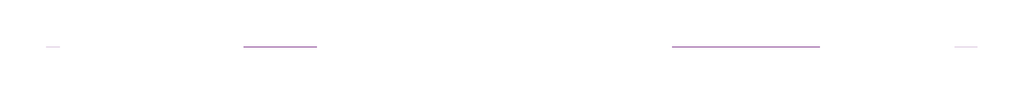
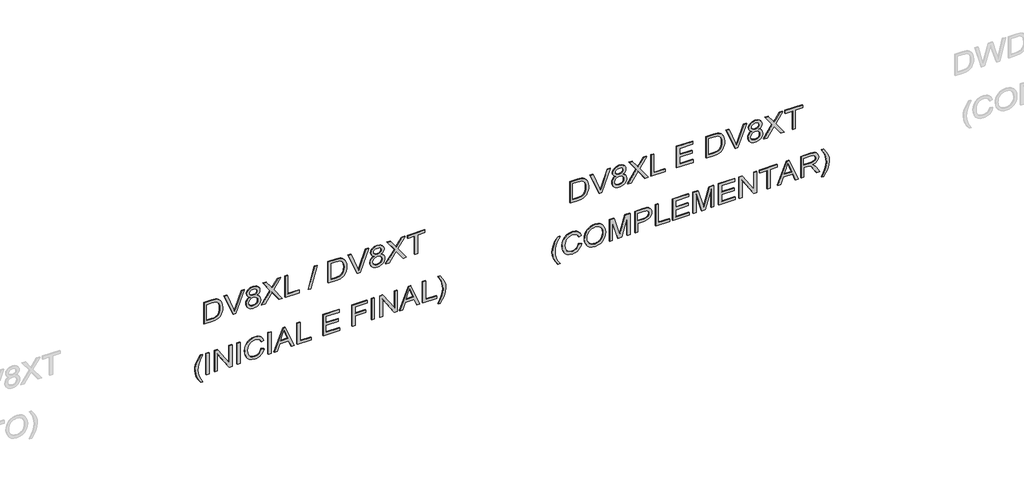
# One storey, part 5 of 7: 2 proxies.
"""IFC4 building model written with IfcOpenShell, lengths in millimetres."""

from ifc_helpers import new_model, si_unit, frame, origin, place, context, project, spatial, polyline, outline, extrude, element, save

model = new_model("IFC4")

# Units and contexts
model_context = context("Model", 3, world=origin())
ifc_project = project(units=[si_unit("LENGTHUNIT", "METRE", prefix="MILLI")], contexts=[model_context])

# Site, building, storey
site = spatial("IfcSite", under=ifc_project)
building = spatial("IfcBuilding", under=site)
storey = spatial("IfcBuildingStorey", under=building, Name="02 - Marelli - Planta Baixa - Painel Duplo", Elevation=-12000.0)

# Proxies
placement = place(None, origin())
element("IfcBuildingElementProxy", 1, Name="300mm Arial", ObjectType="300mm Arial", at=placement, inside=storey, context=model_context, shape_type="SweptSolid", body=[
    extrude(outline(polyline([(-6049.0625952, 32304.6035139), (-6049.0625952, 32413.5701609), (-6043.9122473, 32462.0202196), (-6037.5570858, 32481.5639506), (-6028.7922972, 32498.035867), (-6016.9740882, 32512.3832648), (-6001.458665, 32525.5534402), (-5981.8045694, 32536.9945703), (-5957.570343, 32546.1548319), (-5929.1054736, 32552.1697026), (-5896.7594492, 32554.1746594), (-5858.6836627, 32551.2132094), (-5825.0960365, 32542.3288592), (-5796.5483937, 32527.4848207), (-5773.5925572, 32506.6443057), (-5760.4039877, 32486.3740077), (-5752.0346723, 32462.3513134), (-5747.6936647, 32408.5669657), (-5747.6936647, 32304.6035139), (-6049.0625952, 32304.6035139)]), holes=[polyline([(-6011.3914789, 32342.2746302), (-5785.364781, 32342.2746302), (-5785.364781, 32407.9047782), (-5786.8730972, 32439.6529943), (-5791.3980458, 32461.3212439), (-5803.97961, 32482.6124143), (-5824.8017309, 32500.4270999), (-5855.1152073, 32512.4844323), (-5896.170838, 32516.5035431), (-5927.155699, 32514.452601), (-5953.155759, 32508.2997746), (-5974.2629885, 32498.4681283), (-5990.5693579, 32485.3807263), (-5999.3801317, 32473.2038323), (-6005.9468253, 32457.4216947), (-6010.0303155, 32436.5076033), (-6011.3914789, 32408.9348477), (-6011.3914789, 32342.2746302)])]), frame((0.0, 8778.3159498, 0.0), z_axis=(0.0, 1.0, 0.0), x_axis=(0.0, 0.0, 1.0)), (0.0, 0.0, 1.0), 10.0),
    extrude(outline(polyline([(-6049.0625952, 32694.9998872), (-6049.0625952, 32733.9218023), (-5747.6936647, 32848.7745612), (-5747.6936647, 32808.4546945), (-5964.8176183, 32727.962114), (-6013.7459236, 32711.922459), (-5964.8176183, 32695.6620748), (-5747.6936647, 32615.3902234), (-5747.6936647, 32575.0703568), (-6049.0625952, 32694.9998872)])), frame((0.0, 8778.3159498, 0.0), z_axis=(0.0, 1.0, 0.0), x_axis=(0.0, 0.0, 1.0)), (0.0, 0.0, 1.0), 10.0),
    extrude(outline(polyline([(-5883.074239, 32924.5582522), (-5893.5588758, 32901.2345337), (-5910.4446594, 32883.9440799), (-5932.9590375, 32873.2387139), (-5960.3294579, 32869.6702585), (-5979.4800151, 32871.3717127), (-5996.9797017, 32876.4760754), (-6012.8285179, 32884.9833466), (-6027.0264637, 32896.8935261), (-6038.7274104, 32911.5812148), (-6047.0852295, 32928.4210131), (-6052.0999209, 32947.4129211), (-6053.7714847, 32968.5569388), (-6052.1068187, 32989.7009565), (-6047.1128206, 33008.6928645), (-6038.7894905, 33025.5326628), (-6027.1368283, 33040.2203515), (-6013.0377508, 33052.1305311), (-5997.3751749, 33060.6378022), (-5980.1491004, 33065.7421649), (-5961.3595275, 33067.4436191), (-5935.0099796, 33064.0131195), (-5912.6151632, 33053.7216207), (-5895.0212068, 33036.8450342), (-5883.074239, 33013.6592714), (-5873.1690162, 33033.1846083), (-5859.7873087, 33047.0261684), (-5843.3521805, 33055.2759221), (-5824.2866961, 33058.02584), (-5808.8908346, 33056.4807357), (-5794.7089837, 33051.8454225), (-5781.7411434, 33044.1199006), (-5769.9873136, 33033.30417), (-5760.2338422, 33019.9546521), (-5753.267077, 33004.6277684), (-5747.6936647, 32968.041904), (-5753.1383183, 32931.6767688), (-5759.9441352, 32916.5154321), (-5769.4722788, 32903.3682493), (-5781.0007809, 32892.7456567), (-5793.8076728, 32885.1580905), (-5807.8929547, 32880.6055508), (-5823.2566265, 32879.0880376), (-5842.9567074, 32881.8747437), (-5859.6769441, 32890.234862), (-5873.1414251, 32904.3891218), (-5883.074239, 32924.5582522)]), holes=[polyline([(-5824.3602725, 32916.7591539), (-5809.4610517, 32920.1528653), (-5796.8426993, 32930.3339995), (-5788.2342606, 32946.6771571), (-5785.364781, 32968.5569388), (-5788.29864, 32990.2987647), (-5797.1002167, 33006.6695135), (-5810.2060128, 33016.9334212), (-5826.0525297, 33020.3547237), (-5841.3196325, 33017.0437858), (-5854.0115613, 33007.1109719), (-5862.5648177, 32990.9609523), (-5865.4159032, 32968.9983972), (-5862.5464236, 32946.5116102), (-5853.9379849, 32930.1132703), (-5840.8045977, 32920.097683), (-5824.3602725, 32916.7591539)]), polyline([(-5959.0050828, 32907.3413748), (-5937.0241336, 32911.3236974), (-5919.0530981, 32923.2706652), (-5907.0785391, 32942.3177555), (-5903.0870195, 32967.6004456), (-5907.1337214, 32993.5361263), (-5919.2738273, 33013.217813), (-5937.5943506, 33025.6338304), (-5960.1823051, 33029.7725028), (-5982.3931806, 33025.7625891), (-6000.3182308, 33013.7328478), (-6012.154834, 32994.4926195), (-6016.1003684, 32968.8512444), (-6014.2241702, 32952.1126136), (-6008.5955757, 32935.8890176), (-5999.5364816, 32922.3417632), (-5987.3687846, 32913.6321569), (-5959.0050828, 32907.3413748)])]), frame((0.0, 8778.3159498, 0.0), z_axis=(0.0, 1.0, 0.0), x_axis=(0.0, 0.0, 1.0)), (0.0, 0.0, 1.0), 10.0),
    extrude(outline(polyline([(-6049.0625952, 33081.5702877), (-6049.0625952, 33127.4083843), (-5942.082511, 33202.9713461), (-5917.2136881, 33220.7032583), (-5939.875219, 33236.8164897), (-6049.0625952, 33314.2188615), (-6049.0625952, 33359.3947705), (-5885.2815309, 33243.2176364), (-5747.6936647, 33340.5592123), (-5747.6936647, 33294.7211157), (-5824.3602725, 33240.4953096), (-5854.9680545, 33218.8638483), (-5824.8753073, 33200.3961722), (-5747.6936647, 33145.5817549), (-5747.6936647, 33100.4058459), (-5884.8400725, 33197.7474218), (-6049.0625952, 33081.5702877)])), frame((0.0, 8778.3159498, 0.0), z_axis=(0.0, 1.0, 0.0), x_axis=(0.0, 0.0, 1.0)), (0.0, 0.0, 1.0), 10.0),
    extrude(outline(polyline([(-6049.0625952, 33397.0658868), (-6049.0625952, 33585.4214683), (-6011.3914789, 33585.4214683), (-6011.3914789, 33434.7370031), (-5747.6936647, 33434.7370031), (-5747.6936647, 33397.0658868), (-6049.0625952, 33397.0658868)])), frame((0.0, 8778.3159498, 0.0), z_axis=(0.0, 1.0, 0.0), x_axis=(0.0, 0.0, 1.0)), (0.0, 0.0, 1.0), 10.0),
    extrude(outline(polyline([(-6049.0625952, 33712.5614859), (-6049.0625952, 33746.5537822), (-5747.6936647, 33831.3137939), (-5747.6936647, 33797.3214975), (-6049.0625952, 33712.5614859)])), frame((0.0, 8778.3159498, 0.0), z_axis=(0.0, 1.0, 0.0), x_axis=(0.0, 0.0, 1.0)), (0.0, 0.0, 1.0), 10.0),
    extrude(outline(polyline([(-6049.0625952, 33980.9681895), (-6049.0625952, 34089.9348365), (-6043.9122473, 34138.3848953), (-6037.5570858, 34157.9286263), (-6028.7922972, 34174.4005426), (-6016.9740882, 34188.7479404), (-6001.458665, 34201.9181158), (-5981.8045694, 34213.3592459), (-5957.570343, 34222.5195076), (-5929.1054736, 34228.5343782), (-5896.7594492, 34230.5393351), (-5858.6836627, 34227.577885), (-5825.0960365, 34218.6935348), (-5796.5483937, 34203.8494963), (-5773.5925572, 34183.0089813), (-5760.4039877, 34162.7386833), (-5752.0346723, 34138.7159891), (-5747.6936647, 34084.9316414), (-5747.6936647, 33980.9681895), (-6049.0625952, 33980.9681895)]), holes=[polyline([(-6011.3914789, 34018.6393058), (-5785.364781, 34018.6393058), (-5785.364781, 34084.2694538), (-5786.8730972, 34116.01767), (-5791.3980458, 34137.6859195), (-5803.97961, 34158.9770899), (-5824.8017309, 34176.7917756), (-5855.1152073, 34188.849108), (-5896.170838, 34192.8682188), (-5927.155699, 34190.8172766), (-5953.155759, 34184.6644503), (-5974.2629885, 34174.8328039), (-5990.5693579, 34161.745402), (-5999.3801317, 34149.5685079), (-6005.9468253, 34133.7863703), (-6010.0303155, 34112.8722789), (-6011.3914789, 34085.2995234), (-6011.3914789, 34018.6393058)])]), frame((0.0, 8778.3159498, 0.0), z_axis=(0.0, 1.0, 0.0), x_axis=(0.0, 0.0, 1.0)), (0.0, 0.0, 1.0), 10.0),
    extrude(outline(polyline([(-6049.0625952, 34371.3645628), (-6049.0625952, 34410.2864779), (-5747.6936647, 34525.1392368), (-5747.6936647, 34484.8193701), (-5964.8176183, 34404.3267896), (-6013.7459236, 34388.2871346), (-5964.8176183, 34372.0267504), (-5747.6936647, 34291.7548991), (-5747.6936647, 34251.4350324), (-6049.0625952, 34371.3645628)])), frame((0.0, 8778.3159498, 0.0), z_axis=(0.0, 1.0, 0.0), x_axis=(0.0, 0.0, 1.0)), (0.0, 0.0, 1.0), 10.0),
    extrude(outline(polyline([(-5883.074239, 34600.9229278), (-5893.5588758, 34577.5992093), (-5910.4446594, 34560.3087555), (-5932.9590375, 34549.6033895), (-5960.3294579, 34546.0349341), (-5979.4800151, 34547.7363884), (-5996.9797017, 34552.840751), (-6012.8285179, 34561.3480222), (-6027.0264637, 34573.2582018), (-6038.7274104, 34587.9458904), (-6047.0852295, 34604.7856888), (-6052.0999209, 34623.7775968), (-6053.7714847, 34644.9216144), (-6052.1068187, 34666.0656321), (-6047.1128206, 34685.0575401), (-6038.7894905, 34701.8973384), (-6027.1368283, 34716.5850271), (-6013.0377508, 34728.4952067), (-5997.3751749, 34737.0024778), (-5980.1491004, 34742.1068405), (-5961.3595275, 34743.8082947), (-5935.0099796, 34740.3777951), (-5912.6151632, 34730.0862963), (-5895.0212068, 34713.2097098), (-5883.074239, 34690.023947), (-5873.1690162, 34709.5492839), (-5859.7873087, 34723.390844), (-5843.3521805, 34731.6405977), (-5824.2866961, 34734.3905157), (-5808.8908346, 34732.8454113), (-5794.7089837, 34728.2100981), (-5781.7411434, 34720.4845762), (-5769.9873136, 34709.6688456), (-5760.2338422, 34696.3193277), (-5753.267077, 34680.9924441), (-5747.6936647, 34644.4065796), (-5753.1383183, 34608.0414444), (-5759.9441352, 34592.8801077), (-5769.4722788, 34579.7329249), (-5781.0007809, 34569.1103323), (-5793.8076728, 34561.5227661), (-5807.8929547, 34556.9702264), (-5823.2566265, 34555.4527132), (-5842.9567074, 34558.2394193), (-5859.6769441, 34566.5995377), (-5873.1414251, 34580.7537974), (-5883.074239, 34600.9229278)]), holes=[polyline([(-5824.3602725, 34593.1238295), (-5809.4610517, 34596.5175409), (-5796.8426993, 34606.6986751), (-5788.2342606, 34623.0418328), (-5785.364781, 34644.9216144), (-5788.29864, 34666.6634403), (-5797.1002167, 34683.0341891), (-5810.2060128, 34693.2980968), (-5826.0525297, 34696.7193993), (-5841.3196325, 34693.4084614), (-5854.0115613, 34683.4756475), (-5862.5648177, 34667.3256279), (-5865.4159032, 34645.3630728), (-5862.5464236, 34622.8762859), (-5853.9379849, 34606.4779459), (-5840.8045977, 34596.4623586), (-5824.3602725, 34593.1238295)]), polyline([(-5959.0050828, 34583.7060504), (-5937.0241336, 34587.688373), (-5919.0530981, 34599.6353408), (-5907.0785391, 34618.6824311), (-5903.0870195, 34643.9651212), (-5907.1337214, 34669.9008019), (-5919.2738273, 34689.5824886), (-5937.5943506, 34701.998506), (-5960.1823051, 34706.1371784), (-5982.3931806, 34702.1272647), (-6000.3182308, 34690.0975234), (-6012.154834, 34670.8572951), (-6016.1003684, 34645.21592), (-6014.2241702, 34628.4772892), (-6008.5955757, 34612.2536933), (-5999.5364816, 34598.7064388), (-5987.3687846, 34589.9968325), (-5959.0050828, 34583.7060504)])]), frame((0.0, 8778.3159498, 0.0), z_axis=(0.0, 1.0, 0.0), x_axis=(0.0, 0.0, 1.0)), (0.0, 0.0, 1.0), 10.0),
    extrude(outline(polyline([(-6049.0625952, 34757.9349633), (-6049.0625952, 34803.7730599), (-5942.082511, 34879.3360218), (-5917.2136881, 34897.0679339), (-5939.875219, 34913.1811653), (-6049.0625952, 34990.5835371), (-6049.0625952, 35035.7594461), (-5885.2815309, 34919.582312), (-5747.6936647, 35016.923888), (-5747.6936647, 34971.0857914), (-5824.3602725, 34916.8599853), (-5854.9680545, 34895.2285239), (-5824.8753073, 34876.7608478), (-5747.6936647, 34821.9464305), (-5747.6936647, 34776.7705215), (-5884.8400725, 34874.1120974), (-6049.0625952, 34757.9349633)])), frame((0.0, 8778.3159498, 0.0), z_axis=(0.0, 1.0, 0.0), x_axis=(0.0, 0.0, 1.0)), (0.0, 0.0, 1.0), 10.0),
    extrude(outline(polyline([(-6049.0625952, 35148.772795), (-6049.0625952, 35186.4439113), (-5785.364781, 35186.4439113), (-5785.364781, 35285.3305916), (-5747.6936647, 35285.3305916), (-5747.6936647, 35049.8861147), (-5785.364781, 35049.8861147), (-5785.364781, 35148.772795), (-6049.0625952, 35148.772795)])), frame((0.0, 8778.3159498, 0.0), z_axis=(0.0, 1.0, 0.0), x_axis=(0.0, 0.0, 1.0)), (0.0, 0.0, 1.0), 10.0),
    extrude(outline(polyline([(-6865.6715139, 32257.5146185), (-6865.6715139, 32285.7679558), (-6817.4329873, 32256.9260073), (-6769.1760666, 32236.3246156), (-6720.9007518, 32223.9637806), (-6672.6070429, 32219.8435022), (-6634.7335915, 32222.2163411), (-6597.0440811, 32229.3348577), (-6539.2130314, 32250.5248606), (-6479.5425718, 32285.7679558), (-6479.5425718, 32257.5146185), (-6530.0527697, 32222.8233464), (-6580.7836969, 32198.5063465), (-6625.5733298, 32186.2558761), (-6672.3863137, 32182.1723859), (-6725.7659912, 32187.6354335), (-6777.3062587, 32204.0245764), (-6824.7078538, 32228.3231822), (-6865.6715139, 32257.5146185)])), frame((0.0, 8778.3159498, 0.0), z_axis=(0.0, 1.0, 0.0), x_axis=(0.0, 0.0, 1.0)), (0.0, 0.0, 1.0), 10.0),
    extrude(outline(polyline([(32370.5279674, 8778.3159498), (32332.8568511, 8778.3159498), (32332.8568511, 8788.3159498), (32370.5279674, 8788.3159498), (32370.5279674, 8778.3159498)])), frame((0.0, 0.0, -6780.9115023), z_axis=(0.0, 0.0, 1.0), x_axis=(1.0, 0.0, 0.0)), (0.0, 0.0, 1.0), 301.3689304),
    extrude(outline(polyline([(-6780.9115023, 32445.8702001), (-6780.9115023, 32483.5413164), (-6542.082511, 32483.5413164), (-6780.9115023, 32640.9948103), (-6780.9115023, 32681.314677), (-6479.5425718, 32681.314677), (-6479.5425718, 32643.6435607), (-6718.2979867, 32643.6435607), (-6479.5425718, 32486.1900667), (-6479.5425718, 32445.8702001), (-6780.9115023, 32445.8702001)])), frame((0.0, 8778.3159498, 0.0), z_axis=(0.0, 1.0, 0.0), x_axis=(0.0, 0.0, 1.0)), (0.0, 0.0, 1.0), 10.0),
    extrude(outline(polyline([(32789.6191364, 8778.3159498), (32751.94802, 8778.3159498), (32751.94802, 8788.3159498), (32789.6191364, 8788.3159498), (32789.6191364, 8778.3159498)])), frame((0.0, 0.0, -6780.9115023), z_axis=(0.0, 0.0, 1.0), x_axis=(1.0, 0.0, 0.0)), (0.0, 0.0, 1.0), 301.3689304),
    extrude(outline(polyline([(-6673.7842653, 33076.8613982), (-6706.0475162, 33064.6753071), (-6729.2608701, 33044.8924528), (-6743.2771741, 33018.6900577), (-6747.9492755, 32987.2453442), (-6744.5187759, 32960.2703969), (-6734.2272771, 32935.2636182), (-6717.0012026, 32914.4047091), (-6692.7669762, 32899.8733703), (-6662.674229, 32891.3477051), (-6627.8725923, 32888.5058167), (-6599.4537081, 32890.9062467), (-6571.8809526, 32898.1075367), (-6547.4903763, 32911.2317269), (-6528.61803, 32931.4008573), (-6516.5331064, 32957.9803314), (-6512.5047986, 32990.3355529), (-6516.1376333, 33018.4049492), (-6527.0361374, 33041.2504211), (-6545.8808926, 33059.0926978), (-6573.3524806, 33072.1525086), (-6564.3761599, 33109.823625), (-6526.5578908, 33093.1861617), (-6511.2356057, 33081.3840475), (-6498.3045536, 33067.2596781), (-6488.0360474, 33051.0797681), (-6480.7014001, 33033.1110319), (-6474.8336823, 32991.8070809), (-6479.3678279, 32953.9520236), (-6492.9702646, 32919.4079043), (-6515.3098988, 32890.2808473), (-6546.0556365, 32868.6769771), (-6584.0026643, 32855.2952695), (-6627.9461687, 32850.8347003), (-6669.6088046, 32854.7802347), (-6708.5123256, 32866.6168379), (-6741.6033111, 32886.0042191), (-6765.8283405, 32912.6020873), (-6780.672379, 32947.3025565), (-6785.6203918, 32990.9977405), (-6783.9856162, 33013.4201481), (-6779.0812893, 33034.0399339), (-6770.9074112, 33052.857098), (-6759.4639819, 33069.8716403), (-6744.9073512, 33084.7478685), (-6727.393869, 33097.1500902), (-6706.9235352, 33107.0783056), (-6683.4963499, 33114.5325145), (-6673.7842653, 33076.8613982)])), frame((0.0, 8778.3159498, 0.0), z_axis=(0.0, 1.0, 0.0), x_axis=(0.0, 0.0, 1.0)), (0.0, 0.0, 1.0), 10.0),
    extrude(outline(polyline([(33208.7103053, 8778.3159498), (33171.039189, 8778.3159498), (33171.039189, 8788.3159498), (33208.7103053, 8788.3159498), (33208.7103053, 8778.3159498)])), frame((0.0, 0.0, -6780.9115023), z_axis=(0.0, 0.0, 1.0), x_axis=(1.0, 0.0, 0.0)), (0.0, 0.0, 1.0), 301.3689304),
    extrude(outline(polyline([(-6780.9115023, 33248.9565955), (-6780.9115023, 33288.7614274), (-6686.7337115, 33323.1951822), (-6686.7337115, 33447.3185673), (-6780.9115023, 33481.8258985), (-6780.9115023, 33521.6307304), (-6479.5425718, 33401.3333179), (-6479.5425718, 33369.254008), (-6780.9115023, 33248.9565955)]), holes=[polyline([(-6649.0625952, 33337.0275452), (-6568.4964382, 33366.5316812), (-6517.2136881, 33385.2936629), (-6574.9711614, 33406.4100895), (-6649.0625952, 33433.5597807), (-6649.0625952, 33337.0275452)])]), frame((0.0, 8778.3159498, 0.0), z_axis=(0.0, 1.0, 0.0), x_axis=(0.0, 0.0, 1.0)), (0.0, 0.0, 1.0), 10.0),
    extrude(outline(polyline([(-6780.9115023, 33561.8770206), (-6780.9115023, 33750.2326022), (-6743.2403859, 33750.2326022), (-6743.2403859, 33599.5481369), (-6479.5425718, 33599.5481369), (-6479.5425718, 33561.8770206), (-6780.9115023, 33561.8770206)])), frame((0.0, 8778.3159498, 0.0), z_axis=(0.0, 1.0, 0.0), x_axis=(0.0, 0.0, 1.0)), (0.0, 0.0, 1.0), 10.0),
    extrude(outline(polyline([(-6780.9115023, 33910.3348465), (-6780.9115023, 34131.6526548), (-6743.2403859, 34131.6526548), (-6743.2403859, 33948.0059628), (-6644.3537056, 33948.0059628), (-6644.3537056, 34117.5259861), (-6606.6825893, 34117.5259861), (-6606.6825893, 33948.0059628), (-6517.2136881, 33948.0059628), (-6517.2136881, 34126.9437652), (-6479.5425718, 34126.9437652), (-6479.5425718, 33910.3348465), (-6780.9115023, 33910.3348465)])), frame((0.0, 8778.3159498, 0.0), z_axis=(0.0, 1.0, 0.0), x_axis=(0.0, 0.0, 1.0)), (0.0, 0.0, 1.0), 10.0),
    extrude(outline(polyline([(-6780.9115023, 34305.8815677), (-6780.9115023, 34343.552684), (-6644.3537056, 34343.552684), (-6644.3537056, 34484.8193701), (-6606.6825893, 34484.8193701), (-6606.6825893, 34343.552684), (-6517.2136881, 34343.552684), (-6517.2136881, 34508.3638178), (-6479.5425718, 34508.3638178), (-6479.5425718, 34305.8815677), (-6780.9115023, 34305.8815677)])), frame((0.0, 8778.3159498, 0.0), z_axis=(0.0, 1.0, 0.0), x_axis=(0.0, 0.0, 1.0)), (0.0, 0.0, 1.0), 10.0),
    extrude(outline(polyline([(34602.5416086, 8778.3159498), (34564.8704923, 8778.3159498), (34564.8704923, 8788.3159498), (34602.5416086, 8788.3159498), (34602.5416086, 8778.3159498)])), frame((0.0, 0.0, -6780.9115023), z_axis=(0.0, 0.0, 1.0), x_axis=(1.0, 0.0, 0.0)), (0.0, 0.0, 1.0), 301.3689304),
    extrude(outline(polyline([(-6780.9115023, 34677.8838412), (-6780.9115023, 34715.5549575), (-6542.082511, 34715.5549575), (-6780.9115023, 34873.0084514), (-6780.9115023, 34913.3283181), (-6479.5425718, 34913.3283181), (-6479.5425718, 34875.6572018), (-6718.2979867, 34875.6572018), (-6479.5425718, 34718.2037079), (-6479.5425718, 34677.8838412), (-6780.9115023, 34677.8838412)])), frame((0.0, 8778.3159498, 0.0), z_axis=(0.0, 1.0, 0.0), x_axis=(0.0, 0.0, 1.0)), (0.0, 0.0, 1.0), 10.0),
    extrude(outline(polyline([(-6780.9115023, 34944.1568293), (-6780.9115023, 34983.9616612), (-6686.7337115, 35018.3954159), (-6686.7337115, 35142.5188011), (-6780.9115023, 35177.0261323), (-6780.9115023, 35216.8309641), (-6479.5425718, 35096.5335517), (-6479.5425718, 35064.4542417), (-6780.9115023, 34944.1568293)]), holes=[polyline([(-6649.0625952, 35032.227779), (-6568.4964382, 35061.731915), (-6517.2136881, 35080.4938967), (-6574.9711614, 35101.6103232), (-6649.0625952, 35128.7600145), (-6649.0625952, 35032.227779)])]), frame((0.0, 8778.3159498, 0.0), z_axis=(0.0, 1.0, 0.0), x_axis=(0.0, 0.0, 1.0)), (0.0, 0.0, 1.0), 10.0),
    extrude(outline(polyline([(-6780.9115023, 35257.0772544), (-6780.9115023, 35445.4328359), (-6743.2403859, 35445.4328359), (-6743.2403859, 35294.7483707), (-6479.5425718, 35294.7483707), (-6479.5425718, 35257.0772544), (-6780.9115023, 35257.0772544)])), frame((0.0, 8778.3159498, 0.0), z_axis=(0.0, 1.0, 0.0), x_axis=(0.0, 0.0, 1.0)), (0.0, 0.0, 1.0), 10.0),
    extrude(outline(polyline([(-6865.6715139, 35492.5217313), (-6824.7078538, 35521.5752119), (-6777.3062587, 35545.9014088), (-6725.7659912, 35562.3733251), (-6672.3863137, 35567.8639639), (-6625.5733298, 35563.7804738), (-6580.7836969, 35551.5300033), (-6530.0527697, 35527.2130035), (-6479.5425718, 35492.5217313), (-6479.5425718, 35464.2683941), (-6539.8016426, 35499.7322184), (-6568.1469503, 35511.7067774), (-6597.7062687, 35520.7014921), (-6635.009503, 35527.8200088), (-6672.6070429, 35530.1928476), (-6720.9007518, 35526.0725693), (-6769.1760666, 35513.7117342), (-6817.4329873, 35493.1103425), (-6865.6715139, 35464.2683941), (-6865.6715139, 35492.5217313)])), frame((0.0, 8778.3159498, 0.0), z_axis=(0.0, 1.0, 0.0), x_axis=(0.0, 0.0, 1.0)), (0.0, 0.0, 1.0), 10.0),
])
element("IfcBuildingElementProxy", 2, Name="300mm Arial", ObjectType="300mm Arial", at=placement, inside=storey, context=model_context, shape_type="SweptSolid", body=[
    extrude(outline(polyline([(-6049.0625952, 37245.7423947), (-6049.0625952, 37354.7090417), (-6043.9122473, 37403.1591004), (-6037.5570858, 37422.7028314), (-6028.7922972, 37439.1747477), (-6016.9740882, 37453.5221456), (-6001.458665, 37466.692321), (-5981.8045694, 37478.133451), (-5957.570343, 37487.2937127), (-5929.1054736, 37493.3085833), (-5896.7594492, 37495.3135402), (-5858.6836627, 37492.3520901), (-5825.0960365, 37483.46774), (-5796.5483937, 37468.6237015), (-5773.5925572, 37447.7831864), (-5760.4039877, 37427.5128885), (-5752.0346723, 37403.4901942), (-5747.6936647, 37349.7058465), (-5747.6936647, 37245.7423947), (-6049.0625952, 37245.7423947)]), holes=[polyline([(-6011.3914789, 37283.413511), (-5785.364781, 37283.413511), (-5785.364781, 37349.0436589), (-5786.8730972, 37380.7918751), (-5791.3980458, 37402.4601246), (-5803.97961, 37423.7512951), (-5824.8017309, 37441.5659807), (-5855.1152073, 37453.6233131), (-5896.170838, 37457.6424239), (-5927.155699, 37455.5914818), (-5953.155759, 37449.4386554), (-5974.2629885, 37439.6070091), (-5990.5693579, 37426.5196071), (-5999.3801317, 37414.3427131), (-6005.9468253, 37398.5605755), (-6010.0303155, 37377.6464841), (-6011.3914789, 37350.0737285), (-6011.3914789, 37283.413511)])]), frame((0.0, 8778.3159498, 0.0), z_axis=(0.0, 1.0, 0.0), x_axis=(0.0, 0.0, 1.0)), (0.0, 0.0, 1.0), 10.0),
    extrude(outline(polyline([(-6049.0625952, 37636.138768), (-6049.0625952, 37675.0606831), (-5747.6936647, 37789.9134419), (-5747.6936647, 37749.5935753), (-5964.8176183, 37669.1009947), (-6013.7459236, 37653.0613397), (-5964.8176183, 37636.8009556), (-5747.6936647, 37556.5291042), (-5747.6936647, 37516.2092375), (-6049.0625952, 37636.138768)])), frame((0.0, 8778.3159498, 0.0), z_axis=(0.0, 1.0, 0.0), x_axis=(0.0, 0.0, 1.0)), (0.0, 0.0, 1.0), 10.0),
    extrude(outline(polyline([(-5883.074239, 37865.697133), (-5893.5588758, 37842.3734145), (-5910.4446594, 37825.0829607), (-5932.9590375, 37814.3775946), (-5960.3294579, 37810.8091393), (-5979.4800151, 37812.5105935), (-5996.9797017, 37817.6149562), (-6012.8285179, 37826.1222273), (-6027.0264637, 37838.0324069), (-6038.7274104, 37852.7200956), (-6047.0852295, 37869.5598939), (-6052.0999209, 37888.5518019), (-6053.7714847, 37909.6958196), (-6052.1068187, 37930.8398373), (-6047.1128206, 37949.8317453), (-6038.7894905, 37966.6715436), (-6027.1368283, 37981.3592322), (-6013.0377508, 37993.2694118), (-5997.3751749, 38001.776683), (-5980.1491004, 38006.8810457), (-5961.3595275, 38008.5824999), (-5935.0099796, 38005.1520003), (-5912.6151632, 37994.8605015), (-5895.0212068, 37977.9839149), (-5883.074239, 37954.7981522), (-5873.1690162, 37974.3234891), (-5859.7873087, 37988.1650491), (-5843.3521805, 37996.4148029), (-5824.2866961, 37999.1647208), (-5808.8908346, 37997.6196164), (-5794.7089837, 37992.9843033), (-5781.7411434, 37985.2587814), (-5769.9873136, 37974.4430507), (-5760.2338422, 37961.0935328), (-5753.267077, 37945.7666492), (-5747.6936647, 37909.1807848), (-5753.1383183, 37872.8156496), (-5759.9441352, 37857.6543128), (-5769.4722788, 37844.50713), (-5781.0007809, 37833.8845374), (-5793.8076728, 37826.2969713), (-5807.8929547, 37821.7444316), (-5823.2566265, 37820.2269184), (-5842.9567074, 37823.0136245), (-5859.6769441, 37831.3737428), (-5873.1414251, 37845.5280026), (-5883.074239, 37865.697133)]), holes=[polyline([(-5824.3602725, 37857.8980347), (-5809.4610517, 37861.2917461), (-5796.8426993, 37871.4728803), (-5788.2342606, 37887.8160379), (-5785.364781, 37909.6958196), (-5788.29864, 37931.4376455), (-5797.1002167, 37947.8083943), (-5810.2060128, 37958.0723019), (-5826.0525297, 37961.4936045), (-5841.3196325, 37958.1826665), (-5854.0115613, 37948.2498527), (-5862.5648177, 37932.0998331), (-5865.4159032, 37910.137278), (-5862.5464236, 37887.650491), (-5853.9379849, 37871.2521511), (-5840.8045977, 37861.2365638), (-5824.3602725, 37857.8980347)]), polyline([(-5959.0050828, 37848.4802556), (-5937.0241336, 37852.4625782), (-5919.0530981, 37864.409546), (-5907.0785391, 37883.4566363), (-5903.0870195, 37908.7393264), (-5907.1337214, 37934.6750071), (-5919.2738273, 37954.3566938), (-5937.5943506, 37966.7727111), (-5960.1823051, 37970.9113836), (-5982.3931806, 37966.9014698), (-6000.3182308, 37954.8717286), (-6012.154834, 37935.6315002), (-6016.1003684, 37909.9901252), (-6014.2241702, 37893.2514944), (-6008.5955757, 37877.0278984), (-5999.5364816, 37863.4806439), (-5987.3687846, 37854.7710377), (-5959.0050828, 37848.4802556)])]), frame((0.0, 8778.3159498, 0.0), z_axis=(0.0, 1.0, 0.0), x_axis=(0.0, 0.0, 1.0)), (0.0, 0.0, 1.0), 10.0),
    extrude(outline(polyline([(-6049.0625952, 38022.7091685), (-6049.0625952, 38068.5472651), (-5942.082511, 38144.1102269), (-5917.2136881, 38161.8421391), (-5939.875219, 38177.9553705), (-6049.0625952, 38255.3577422), (-6049.0625952, 38300.5336513), (-5885.2815309, 38184.3565172), (-5747.6936647, 38281.6980931), (-5747.6936647, 38235.8599965), (-5824.3602725, 38181.6341904), (-5854.9680545, 38160.0027291), (-5824.8753073, 38141.5350529), (-5747.6936647, 38086.7206357), (-5747.6936647, 38041.5447266), (-5884.8400725, 38138.8863026), (-6049.0625952, 38022.7091685)])), frame((0.0, 8778.3159498, 0.0), z_axis=(0.0, 1.0, 0.0), x_axis=(0.0, 0.0, 1.0)), (0.0, 0.0, 1.0), 10.0),
    extrude(outline(polyline([(-6049.0625952, 38338.2047676), (-6049.0625952, 38526.5603491), (-6011.3914789, 38526.5603491), (-6011.3914789, 38375.8758839), (-5747.6936647, 38375.8758839), (-5747.6936647, 38338.2047676), (-6049.0625952, 38338.2047676)])), frame((0.0, 8778.3159498, 0.0), z_axis=(0.0, 1.0, 0.0), x_axis=(0.0, 0.0, 1.0)), (0.0, 0.0, 1.0), 10.0),
    extrude(outline(polyline([(-6049.0625952, 38686.6625934), (-6049.0625952, 38907.9804017), (-6011.3914789, 38907.9804017), (-6011.3914789, 38724.3337097), (-5912.5047986, 38724.3337097), (-5912.5047986, 38893.8537331), (-5874.8336823, 38893.8537331), (-5874.8336823, 38724.3337097), (-5785.364781, 38724.3337097), (-5785.364781, 38903.2715122), (-5747.6936647, 38903.2715122), (-5747.6936647, 38686.6625934), (-6049.0625952, 38686.6625934)])), frame((0.0, 8778.3159498, 0.0), z_axis=(0.0, 1.0, 0.0), x_axis=(0.0, 0.0, 1.0)), (0.0, 0.0, 1.0), 10.0),
    extrude(outline(polyline([(-6049.0625952, 39082.2093146), (-6049.0625952, 39191.1759616), (-6043.9122473, 39239.6260203), (-6037.5570858, 39259.1697513), (-6028.7922972, 39275.6416677), (-6016.9740882, 39289.9890655), (-6001.458665, 39303.1592409), (-5981.8045694, 39314.600371), (-5957.570343, 39323.7606326), (-5929.1054736, 39329.7755033), (-5896.7594492, 39331.7804601), (-5858.6836627, 39328.8190101), (-5825.0960365, 39319.9346599), (-5796.5483937, 39305.0906214), (-5773.5925572, 39284.2501064), (-5760.4039877, 39263.9798084), (-5752.0346723, 39239.9571141), (-5747.6936647, 39186.1727664), (-5747.6936647, 39082.2093146), (-6049.0625952, 39082.2093146)]), holes=[polyline([(-6011.3914789, 39119.8804309), (-5785.364781, 39119.8804309), (-5785.364781, 39185.5105789), (-5786.8730972, 39217.258795), (-5791.3980458, 39238.9270446), (-5803.97961, 39260.218215), (-5824.8017309, 39278.0329006), (-5855.1152073, 39290.090233), (-5896.170838, 39294.1093438), (-5927.155699, 39292.0584017), (-5953.155759, 39285.9055753), (-5974.2629885, 39276.073929), (-5990.5693579, 39262.986527), (-5999.3801317, 39250.809633), (-6005.9468253, 39235.0274954), (-6010.0303155, 39214.113404), (-6011.3914789, 39186.5406484), (-6011.3914789, 39119.8804309)])]), frame((0.0, 8778.3159498, 0.0), z_axis=(0.0, 1.0, 0.0), x_axis=(0.0, 0.0, 1.0)), (0.0, 0.0, 1.0), 10.0),
    extrude(outline(polyline([(-6049.0625952, 39472.6056879), (-6049.0625952, 39511.527603), (-5747.6936647, 39626.3803619), (-5747.6936647, 39586.0604952), (-5964.8176183, 39505.5679147), (-6013.7459236, 39489.5282597), (-5964.8176183, 39473.2678755), (-5747.6936647, 39392.9960241), (-5747.6936647, 39352.6761575), (-6049.0625952, 39472.6056879)])), frame((0.0, 8778.3159498, 0.0), z_axis=(0.0, 1.0, 0.0), x_axis=(0.0, 0.0, 1.0)), (0.0, 0.0, 1.0), 10.0),
    extrude(outline(polyline([(-5883.074239, 39702.1640529), (-5893.5588758, 39678.8403344), (-5910.4446594, 39661.5498806), (-5932.9590375, 39650.8445146), (-5960.3294579, 39647.2760592), (-5979.4800151, 39648.9775134), (-5996.9797017, 39654.0818761), (-6012.8285179, 39662.5891472), (-6027.0264637, 39674.4993268), (-6038.7274104, 39689.1870155), (-6047.0852295, 39706.0268138), (-6052.0999209, 39725.0187218), (-6053.7714847, 39746.1627395), (-6052.1068187, 39767.3067572), (-6047.1128206, 39786.2986652), (-6038.7894905, 39803.1384635), (-6027.1368283, 39817.8261522), (-6013.0377508, 39829.7363318), (-5997.3751749, 39838.2436029), (-5980.1491004, 39843.3479656), (-5961.3595275, 39845.0494198), (-5935.0099796, 39841.6189202), (-5912.6151632, 39831.3274214), (-5895.0212068, 39814.4508349), (-5883.074239, 39791.2650721), (-5873.1690162, 39810.790409), (-5859.7873087, 39824.6319691), (-5843.3521805, 39832.8817228), (-5824.2866961, 39835.6316407), (-5808.8908346, 39834.0865363), (-5794.7089837, 39829.4512232), (-5781.7411434, 39821.7257013), (-5769.9873136, 39810.9099707), (-5760.2338422, 39797.5604528), (-5753.267077, 39782.2335691), (-5747.6936647, 39745.6477047), (-5753.1383183, 39709.2825695), (-5759.9441352, 39694.1212328), (-5769.4722788, 39680.97405), (-5781.0007809, 39670.3514573), (-5793.8076728, 39662.7638912), (-5807.8929547, 39658.2113515), (-5823.2566265, 39656.6938383), (-5842.9567074, 39659.4805444), (-5859.6769441, 39667.8406627), (-5873.1414251, 39681.9949225), (-5883.074239, 39702.1640529)]), holes=[polyline([(-5959.0050828, 39684.9471755), (-5937.0241336, 39688.9294981), (-5919.0530981, 39700.8764659), (-5907.0785391, 39719.9235562), (-5903.0870195, 39745.2062463), (-5907.1337214, 39771.141927), (-5919.2738273, 39790.8236137), (-5937.5943506, 39803.2396311), (-5960.1823051, 39807.3783035), (-5982.3931806, 39803.3683898), (-6000.3182308, 39791.3386485), (-6012.154834, 39772.0984202), (-6016.1003684, 39746.4570451), (-6014.2241702, 39729.7184143), (-6008.5955757, 39713.4948183), (-5999.5364816, 39699.9475639), (-5987.3687846, 39691.2379576), (-5959.0050828, 39684.9471755)]), polyline([(-5824.3602725, 39694.3649546), (-5809.4610517, 39697.758666), (-5796.8426993, 39707.9398002), (-5788.2342606, 39724.2829578), (-5785.364781, 39746.1627395), (-5788.29864, 39767.9045654), (-5797.1002167, 39784.2753142), (-5810.2060128, 39794.5392219), (-5826.0525297, 39797.9605244), (-5841.3196325, 39794.6495865), (-5854.0115613, 39784.7167726), (-5862.5648177, 39768.566753), (-5865.4159032, 39746.6041979), (-5862.5464236, 39724.1174109), (-5853.9379849, 39707.719071), (-5840.8045977, 39697.7034837), (-5824.3602725, 39694.3649546)])]), frame((0.0, 8778.3159498, 0.0), z_axis=(0.0, 1.0, 0.0), x_axis=(0.0, 0.0, 1.0)), (0.0, 0.0, 1.0), 10.0),
    extrude(outline(polyline([(-6049.0625952, 39859.1760884), (-6049.0625952, 39905.014185), (-5942.082511, 39980.5771468), (-5917.2136881, 39998.309059), (-5939.875219, 40014.4222904), (-6049.0625952, 40091.8246622), (-6049.0625952, 40137.0005712), (-5885.2815309, 40020.8234371), (-5747.6936647, 40118.165013), (-5747.6936647, 40072.3269164), (-5824.3602725, 40018.1011103), (-5854.9680545, 39996.469649), (-5824.8753073, 39978.0019729), (-5747.6936647, 39923.1875556), (-5747.6936647, 39878.0116466), (-5884.8400725, 39975.3532225), (-6049.0625952, 39859.1760884)])), frame((0.0, 8778.3159498, 0.0), z_axis=(0.0, 1.0, 0.0), x_axis=(0.0, 0.0, 1.0)), (0.0, 0.0, 1.0), 10.0),
    extrude(outline(polyline([(-6049.0625952, 40250.0139201), (-6049.0625952, 40287.6850364), (-5785.364781, 40287.6850364), (-5785.364781, 40386.5717167), (-5747.6936647, 40386.5717167), (-5747.6936647, 40151.1272398), (-5785.364781, 40151.1272398), (-5785.364781, 40250.0139201), (-6049.0625952, 40250.0139201)])), frame((0.0, 8778.3159498, 0.0), z_axis=(0.0, 1.0, 0.0), x_axis=(0.0, 0.0, 1.0)), (0.0, 0.0, 1.0), 10.0),
    extrude(outline(polyline([(-6865.6715139, 37080.9312608), (-6865.6715139, 37109.1845981), (-6817.4329873, 37080.3426497), (-6769.1760666, 37059.7412579), (-6720.9007518, 37047.3804229), (-6672.6070429, 37043.2601445), (-6634.7335915, 37045.6329834), (-6597.0440811, 37052.7515), (-6539.2130314, 37073.9415029), (-6479.5425718, 37109.1845981), (-6479.5425718, 37080.9312608), (-6530.0527697, 37046.2399887), (-6580.7836969, 37021.9229888), (-6625.5733298, 37009.6725184), (-6672.3863137, 37005.5890282), (-6725.7659912, 37011.0520759), (-6777.3062587, 37027.4412187), (-6824.7078538, 37051.7398245), (-6865.6715139, 37080.9312608)])), frame((0.0, 8778.3159498, 0.0), z_axis=(0.0, 1.0, 0.0), x_axis=(0.0, 0.0, 1.0)), (0.0, 0.0, 1.0), 10.0),
    extrude(outline(polyline([(-6673.7842653, 37363.4646331), (-6706.0475162, 37351.278542), (-6729.2608701, 37331.4956878), (-6743.2771741, 37305.2932927), (-6747.9492755, 37273.8485791), (-6744.5187759, 37246.8736318), (-6734.2272771, 37221.8668532), (-6717.0012026, 37201.0079441), (-6692.7669762, 37186.4766053), (-6662.674229, 37177.95094), (-6627.8725923, 37175.1090516), (-6599.4537081, 37177.5094816), (-6571.8809526, 37184.7107717), (-6547.4903763, 37197.8349619), (-6528.61803, 37218.0040922), (-6516.5331064, 37244.5835664), (-6512.5047986, 37276.9387879), (-6516.1376333, 37305.0081841), (-6527.0361374, 37327.853656), (-6545.8808926, 37345.6959328), (-6573.3524806, 37358.7557436), (-6564.3761599, 37396.4268599), (-6526.5578908, 37379.7893967), (-6511.2356057, 37367.9872824), (-6498.3045536, 37353.8629131), (-6488.0360474, 37337.6830031), (-6480.7014001, 37319.7142669), (-6474.8336823, 37278.4103159), (-6479.3678279, 37240.5552586), (-6492.9702646, 37206.0111392), (-6515.3098988, 37176.8840822), (-6546.0556365, 37155.2802121), (-6584.0026643, 37141.8985045), (-6627.9461687, 37137.4379353), (-6669.6088046, 37141.3834697), (-6708.5123256, 37153.2200729), (-6741.6033111, 37172.607454), (-6765.8283405, 37199.2053223), (-6780.672379, 37233.9057915), (-6785.6203918, 37277.6009755), (-6783.9856162, 37300.0233831), (-6779.0812893, 37320.6431689), (-6770.9074112, 37339.460333), (-6759.4639819, 37356.4748752), (-6744.9073512, 37371.3511034), (-6727.393869, 37383.7533252), (-6706.9235352, 37393.6815405), (-6683.4963499, 37401.1357494), (-6673.7842653, 37363.4646331)])), frame((0.0, 8778.3159498, 0.0), z_axis=(0.0, 1.0, 0.0), x_axis=(0.0, 0.0, 1.0)), (0.0, 0.0, 1.0), 10.0),
    extrude(outline(polyline([(-6634.2001626, 37438.8068658), (-6672.7449986, 37443.1110851), (-6709.2113014, 37456.0237431), (-6740.9043353, 37477.2873224), (-6765.1293647, 37506.6443057), (-6780.497635, 37542.292071), (-6785.6203918, 37582.4279967), (-6780.9850787, 37620.2370687), (-6767.0791392, 37655.3789963), (-6744.1600909, 37685.3429848), (-6712.4854512, 37707.6182396), (-6674.0233886, 37721.4414056), (-6630.7420718, 37726.0491276), (-6588.0309722, 37721.6713318), (-6550.1023385, 37708.5379446), (-6518.482881, 37687.0536361), (-6494.69931, 37657.6230765), (-6479.8000892, 37622.1776462), (-6474.8336823, 37582.6487259), (-6477.4778341, 37552.3582421), (-6485.4102896, 37524.9832231), (-6498.6310488, 37500.523669), (-6517.1401117, 37478.9795796), (-6540.3212759, 37461.4040173), (-6567.5583392, 37448.8500442), (-6598.8513014, 37441.3176604), (-6634.2001626, 37438.8068658)]), holes=[polyline([(-6634.5680446, 37476.4779821), (-6604.0315397, 37478.4415522), (-6578.1993259, 37484.3322627), (-6557.071403, 37494.1501134), (-6540.6477712, 37507.8951044), (-6528.3352207, 37524.3624223), (-6519.5405417, 37542.3472533), (-6514.2637344, 37561.8495976), (-6512.5047986, 37582.8694551), (-6516.1560274, 37612.0333002), (-6527.1097138, 37638.1621189), (-6544.7036702, 37659.8211714), (-6568.275709, 37675.5757178), (-6597.0992634, 37685.1774379), (-6630.4477662, 37688.3780113), (-6656.9858537, 37686.5087109), (-6680.3141707, 37680.9008097), (-6700.4327173, 37671.5543078), (-6717.3414935, 37658.4692051), (-6730.7323981, 37642.4870316), (-6740.29733, 37624.4493176), (-6746.0362891, 37604.3560628), (-6747.9492755, 37582.2072675), (-6746.0546832, 37560.4309526), (-6740.3709064, 37540.5722227), (-6730.897945, 37522.6310776), (-6717.6357991, 37506.6075175), (-6701.0765108, 37493.4258457), (-6681.7121223, 37484.0103659), (-6659.5426335, 37478.361078), (-6634.5680446, 37476.4779821)])]), frame((0.0, 8778.3159498, 0.0), z_axis=(0.0, 1.0, 0.0), x_axis=(0.0, 0.0, 1.0)), (0.0, 0.0, 1.0), 10.0),
    extrude(outline(polyline([(-6780.9115023, 37777.8469125), (-6780.9115023, 37815.5180288), (-6517.2136881, 37815.5180288), (-6780.9115023, 37891.2281434), (-6780.9115023, 37942.2901644), (-6517.2136881, 38018.000279), (-6780.9115023, 38018.000279), (-6780.9115023, 38055.6713953), (-6479.5425718, 38055.6713953), (-6479.5425718, 37990.8505877), (-6688.2788159, 37930.2236349), (-6736.3242044, 37916.7591539), (-6691.9576358, 37904.3247424), (-6479.5425718, 37842.6677201), (-6479.5425718, 37777.8469125), (-6780.9115023, 37777.8469125)])), frame((0.0, 8778.3159498, 0.0), z_axis=(0.0, 1.0, 0.0), x_axis=(0.0, 0.0, 1.0)), (0.0, 0.0, 1.0), 10.0),
    extrude(outline(polyline([(-6780.9115023, 38121.5958488), (-6780.9115023, 38159.2669651), (-6658.4803743, 38159.2669651), (-6658.4803743, 38235.8599965), (-6656.8157082, 38265.0583306), (-6651.8217101, 38289.3776298), (-6643.49838, 38308.8178939), (-6631.8457178, 38323.3791232), (-6617.7880271, 38333.9856209), (-6602.2496113, 38341.5616908), (-6585.2304705, 38346.1073327), (-6566.7306047, 38347.6225466), (-6545.2738873, 38345.3784665), (-6525.6381858, 38338.646226), (-6508.9915255, 38328.2259684), (-6496.5019318, 38314.9178373), (-6487.7739314, 38298.3907386), (-6482.4120514, 38278.3135787), (-6479.5425718, 38233.2848225), (-6479.5425718, 38121.5958488), (-6780.9115023, 38121.5958488)]), holes=[polyline([(-6620.809258, 38159.2669651), (-6517.2136881, 38159.2669651), (-6517.2136881, 38237.1843717), (-6519.7888621, 38274.855488), (-6526.1164324, 38289.0833242), (-6536.8585867, 38300.2761339), (-6551.1324081, 38307.5326062), (-6568.0549798, 38309.9514303), (-6590.3302347, 38305.8495461), (-6606.9768949, 38293.5438933), (-6617.3511672, 38271.4709736), (-6620.809258, 38238.0672885), (-6620.809258, 38159.2669651)])]), frame((0.0, 8778.3159498, 0.0), z_axis=(0.0, 1.0, 0.0), x_axis=(0.0, 0.0, 1.0)), (0.0, 0.0, 1.0), 10.0),
    extrude(outline(polyline([(-6780.9115023, 38399.4203316), (-6780.9115023, 38587.7759131), (-6743.2403859, 38587.7759131), (-6743.2403859, 38437.0914479), (-6479.5425718, 38437.0914479), (-6479.5425718, 38399.4203316), (-6780.9115023, 38399.4203316)])), frame((0.0, 8778.3159498, 0.0), z_axis=(0.0, 1.0, 0.0), x_axis=(0.0, 0.0, 1.0)), (0.0, 0.0, 1.0), 10.0),
    extrude(outline(polyline([(-6780.9115023, 38630.1559189), (-6780.9115023, 38851.4737272), (-6743.2403859, 38851.4737272), (-6743.2403859, 38667.8270352), (-6644.3537056, 38667.8270352), (-6644.3537056, 38837.3470586), (-6606.6825893, 38837.3470586), (-6606.6825893, 38667.8270352), (-6517.2136881, 38667.8270352), (-6517.2136881, 38846.7648377), (-6479.5425718, 38846.7648377), (-6479.5425718, 38630.1559189), (-6780.9115023, 38630.1559189)])), frame((0.0, 8778.3159498, 0.0), z_axis=(0.0, 1.0, 0.0), x_axis=(0.0, 0.0, 1.0)), (0.0, 0.0, 1.0), 10.0),
    extrude(outline(polyline([(-6780.9115023, 38907.9804017), (-6780.9115023, 38945.651518), (-6517.2136881, 38945.651518), (-6780.9115023, 39021.3616326), (-6780.9115023, 39072.4236535), (-6517.2136881, 39148.1337681), (-6780.9115023, 39148.1337681), (-6780.9115023, 39185.8048844), (-6479.5425718, 39185.8048844), (-6479.5425718, 39120.9840769), (-6688.2788159, 39060.3571241), (-6736.3242044, 39046.8926431), (-6691.9576358, 39034.4582316), (-6479.5425718, 38972.8012092), (-6479.5425718, 38907.9804017), (-6780.9115023, 38907.9804017)])), frame((0.0, 8778.3159498, 0.0), z_axis=(0.0, 1.0, 0.0), x_axis=(0.0, 0.0, 1.0)), (0.0, 0.0, 1.0), 10.0),
    extrude(outline(polyline([(-6780.9115023, 39251.729338), (-6780.9115023, 39473.0471463), (-6743.2403859, 39473.0471463), (-6743.2403859, 39289.4004543), (-6644.3537056, 39289.4004543), (-6644.3537056, 39458.9204777), (-6606.6825893, 39458.9204777), (-6606.6825893, 39289.4004543), (-6517.2136881, 39289.4004543), (-6517.2136881, 39468.3382567), (-6479.5425718, 39468.3382567), (-6479.5425718, 39251.729338), (-6780.9115023, 39251.729338)])), frame((0.0, 8778.3159498, 0.0), z_axis=(0.0, 1.0, 0.0), x_axis=(0.0, 0.0, 1.0)), (0.0, 0.0, 1.0), 10.0),
    extrude(outline(polyline([(-6780.9115023, 39529.5538207), (-6780.9115023, 39567.224937), (-6542.082511, 39567.224937), (-6780.9115023, 39724.678431), (-6780.9115023, 39764.9982977), (-6479.5425718, 39764.9982977), (-6479.5425718, 39727.3271813), (-6718.2979867, 39727.3271813), (-6479.5425718, 39569.8736874), (-6479.5425718, 39529.5538207), (-6780.9115023, 39529.5538207)])), frame((0.0, 8778.3159498, 0.0), z_axis=(0.0, 1.0, 0.0), x_axis=(0.0, 0.0, 1.0)), (0.0, 0.0, 1.0), 10.0),
    extrude(outline(polyline([(-6780.9115023, 39906.2649838), (-6780.9115023, 39943.9361001), (-6517.2136881, 39943.9361001), (-6517.2136881, 40042.8227804), (-6479.5425718, 40042.8227804), (-6479.5425718, 39807.3783035), (-6517.2136881, 39807.3783035), (-6517.2136881, 39906.2649838), (-6780.9115023, 39906.2649838)])), frame((0.0, 8778.3159498, 0.0), z_axis=(0.0, 1.0, 0.0), x_axis=(0.0, 0.0, 1.0)), (0.0, 0.0, 1.0), 10.0),
    extrude(outline(polyline([(-6780.9115023, 40050.1068439), (-6780.9115023, 40089.9116758), (-6686.7337115, 40124.3454305), (-6686.7337115, 40248.4688157), (-6780.9115023, 40282.9761469), (-6780.9115023, 40322.7809787), (-6479.5425718, 40202.4835663), (-6479.5425718, 40170.4042563), (-6780.9115023, 40050.1068439)]), holes=[polyline([(-6649.0625952, 40138.1777936), (-6568.4964382, 40167.6819296), (-6517.2136881, 40186.4439113), (-6574.9711614, 40207.5603379), (-6649.0625952, 40234.7100291), (-6649.0625952, 40138.1777936)])]), frame((0.0, 8778.3159498, 0.0), z_axis=(0.0, 1.0, 0.0), x_axis=(0.0, 0.0, 1.0)), (0.0, 0.0, 1.0), 10.0),
    extrude(outline(polyline([(-6780.9115023, 40363.027269), (-6780.9115023, 40400.6983853), (-6649.0625952, 40400.6983853), (-6649.0625952, 40446.1685999), (-6650.3869704, 40468.0207904), (-6657.5606693, 40485.9366436), (-6677.0952032, 40505.8390595), (-6718.4451395, 40534.1659732), (-6780.9115023, 40573.3821939), (-6780.9115023, 40617.1601513), (-6699.2416993, 40566.9074707), (-6660.466937, 40536.3732651), (-6644.3537056, 40514.962533), (-6634.3657095, 40552.0726293), (-6626.3504805, 40566.454516), (-6616.3210976, 40578.0542952), (-6591.7097921, 40593.3673832), (-6562.0217151, 40598.4717459), (-6538.1553707, 40595.3907342), (-6516.4411359, 40586.1476991), (-6498.929953, 40571.745119), (-6487.6727639, 40553.1854723), (-6481.5751198, 40527.7924176), (-6479.5425718, 40492.8896133), (-6479.5425718, 40363.027269), (-6780.9115023, 40363.027269)]), holes=[polyline([(-6611.3914789, 40400.6983853), (-6517.2136881, 40400.6983853), (-6517.2136881, 40494.5082941), (-6520.4694438, 40524.3159327), (-6530.2367107, 40544.8713392), (-6545.043961, 40556.818307), (-6563.4196667, 40560.8006296), (-6576.7277979, 40558.7128993), (-6588.9874654, 40552.4497083), (-6599.1226143, 40542.1674066), (-6606.0571899, 40528.0223438), (-6610.0579066, 40509.2327709), (-6611.3914789, 40485.0169386), (-6611.3914789, 40400.6983853)])]), frame((0.0, 8778.3159498, 0.0), z_axis=(0.0, 1.0, 0.0), x_axis=(0.0, 0.0, 1.0)), (0.0, 0.0, 1.0), 10.0),
    extrude(outline(polyline([(-6865.6715139, 40669.105089), (-6824.7078538, 40698.1585696), (-6777.3062587, 40722.4847665), (-6725.7659912, 40738.9566828), (-6672.3863137, 40744.4473216), (-6625.5733298, 40740.3638315), (-6580.7836969, 40728.113361), (-6530.0527697, 40703.7963611), (-6479.5425718, 40669.105089), (-6479.5425718, 40640.8517518), (-6539.8016426, 40676.3155761), (-6568.1469503, 40688.290135), (-6597.7062687, 40697.2848498), (-6635.009503, 40704.4033664), (-6672.6070429, 40706.7762053), (-6720.9007518, 40702.655927), (-6769.1760666, 40690.2950919), (-6817.4329873, 40669.6937002), (-6865.6715139, 40640.8517518), (-6865.6715139, 40669.105089)])), frame((0.0, 8778.3159498, 0.0), z_axis=(0.0, 1.0, 0.0), x_axis=(0.0, 0.0, 1.0)), (0.0, 0.0, 1.0), 10.0),
])

save(model, "model.ifc")
